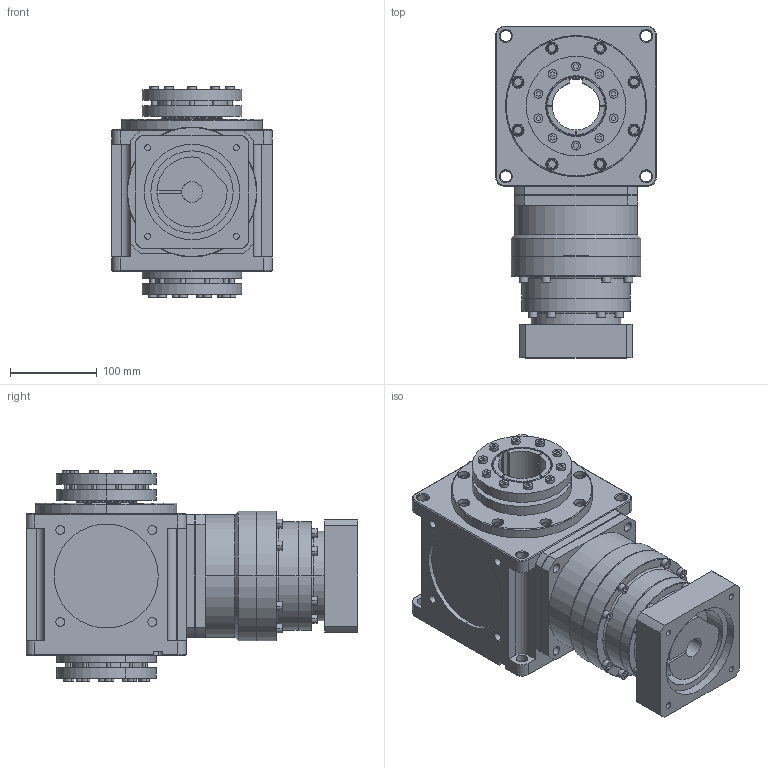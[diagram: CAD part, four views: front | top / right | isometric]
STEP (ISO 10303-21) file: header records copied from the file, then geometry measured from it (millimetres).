
FILE_DESCRIPTION (( 'STEP AP214' ), '1' );
FILE_NAME ('CCW185A-L2(24-200)-2HP-K 24-110-145-M8.STEP', '2025-05-26T07:04:53', ( '微软用户' ), ( '微软中国' ), 'SwSTEP 2.0', 'SolidWorks 2024', '' );
FILE_SCHEMA (( 'AUTOMOTIVE_DESIGN' ));
Length unit declared in the file: millimetre
Products named in the file (4): CCW185A-002-2HP-K箱体; VRB-142-L2-S2-P1 24-110-145-M8; CCW185A-L2(24-200)-2HP-K 24-110-145-M8; 外紧固型胀紧套[68-115]_EDO-68-115
Assembly tree (4 placements, depth 2):
  CCW185A-L2(24-200)-2HP-K 24-110-145-M8
    VRB-142-L2-S2-P1 24-110-145-M8
    CCW185A-002-2HP-K箱体
    外紧固型胀紧套[68-115]_EDO-68-115  x2
Bounding box: 185 x 383 x 244 mm (x, y, z)
Volume: 8444397.5 mm3; surface area: 557812.1 mm2
Topology: 4 solids, 4 shells, 1015 faces, 2435 edges, 1567 vertices
Faces by surface type: plane 557, cylinder 350, cone 62, torus 46
Entity records: 25215 total; most frequent: CARTESIAN_POINT 4641, DIRECTION 4478, ORIENTED_EDGE 4074, EDGE_CURVE 2037, AXIS2_PLACEMENT_3D 1648, VERTEX_POINT 1303, LINE 1182, VECTOR 1182
